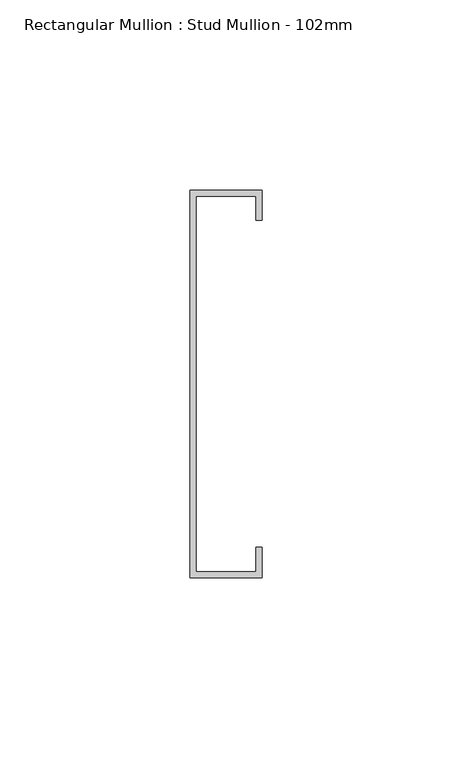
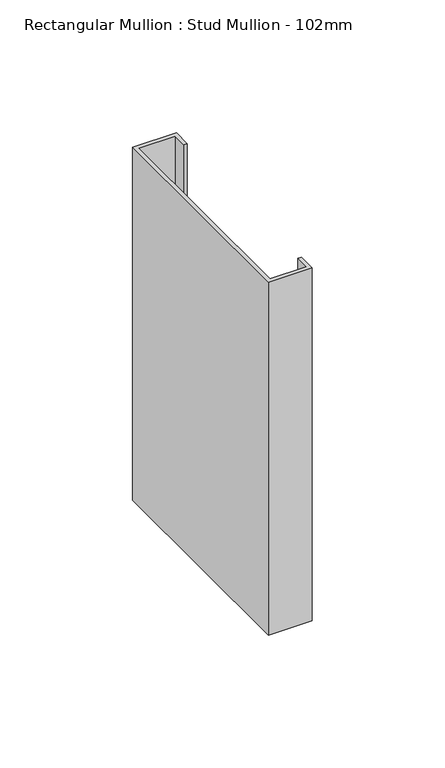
"""IFC4 building model written with IfcOpenShell, lengths in millimetres: member geometry, Rectangular Mullion : Stud Mullion - 102mm."""

from ifc_helpers import new_model, si_unit, frame, origin, place, context, project, spatial, polyline, outline, extrude, source, transform, mapped, element, save


def rectangular_mullion_stud_mullion_102mm_91d22449(model_context):
    return source(origin(), model_context, "Body", "SweptSolid", [
        extrude(outline(polyline([(0.0, 43.0), (-1.6, 43.0), (-1.6, 49.4), (-17.4, 49.4), (-17.4, -49.4), (-1.6, -49.4), (-1.6, -43.0), (0.0, -43.0), (0.0, -51.0), (-19.0, -51.0), (-19.0, 51.0), (0.0, 51.0), (0.0, 43.0)])), frame((0.0, 0.0, -161.9999997), z_axis=(0.0, 0.0, 1.0), x_axis=(1.0, 0.0, 0.0)), (0.0, 0.0, 1.0), 161.9999997),
    ])


if __name__ == "__main__":
    model = new_model("IFC4")
    model_context = context("Model", 3, world=origin())
    ifc_project = project(units=[si_unit("LENGTHUNIT", "METRE", prefix="MILLI")], contexts=[model_context])
    site = spatial("IfcSite", under=ifc_project)
    building = spatial("IfcBuilding", under=site)
    placement = place(None, origin())
    rectangular_mullion_stud_mullion_102mm_shape = rectangular_mullion_stud_mullion_102mm_91d22449(model_context)
    element("IfcMember", 1, ObjectType="Rectangular Mullion : Stud Mullion - 102mm", at=placement, inside=building, context=model_context, shape_type="MappedRepresentation", body=[
        mapped(rectangular_mullion_stud_mullion_102mm_shape, transform((0.0, 0.0, 0.0), x_axis=(1.0, 0.0, 0.0), y_axis=(0.0, 1.0, 0.0), z_axis=(0.0, 0.0, 1.0))),
    ])
    save(model, "model.ifc")
